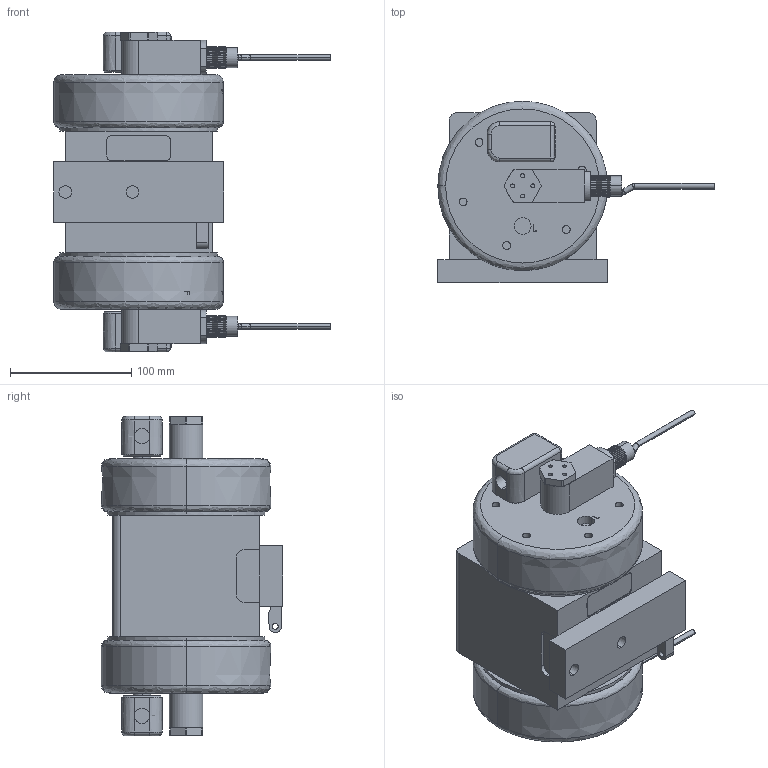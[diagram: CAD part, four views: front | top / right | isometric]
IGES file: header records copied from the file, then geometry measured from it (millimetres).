
Start section: SolidWorks IGES file using analytic representation for surfaces
Global section: file name: \\server\Users\Karen.Bodily\My Documents\PXU030_solid model.IGS; native system: SolidWorks 2012; preprocessor: SolidWorks 2012; author: karen.bodily; date: 130724.155318; units: inch
Bounding box: 228.02 x 149.4 x 263.49 mm (x, y, z)
Volume: 3195126 mm3; surface area: 186441.3 mm2
Topology: 1 solids, 5 shells, 1348 faces, 3343 edges, 2145 vertices
Faces by surface type: plane 810, revolution 413, bspline 125
